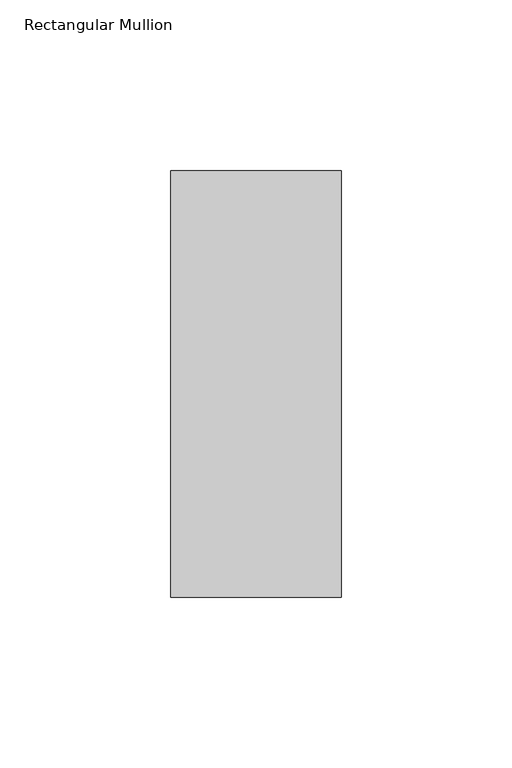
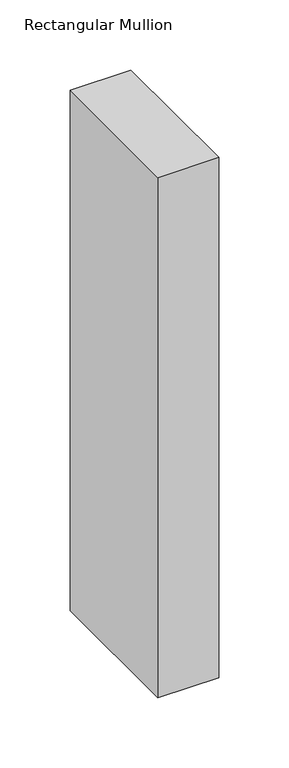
"""IFC4 building model written with IfcOpenShell, lengths in millimetres: member geometry, Rectangular Mullion : DucoSun Cubic Design profile 50x125 for louvre 600."""

from ifc_helpers import new_model, si_unit, frame, origin, place, context, project, spatial, polyline, outline, extrude, source, transform, mapped, element, save


def rectangular_mullion_7d3f3cb4(model_context):
    return source(origin(), model_context, "Body", "SweptSolid", [
        extrude(outline(polyline([(-50.0, -237.5), (0.0, -237.5), (0.0, -362.5), (-50.0, -362.5), (-50.0, -237.5)])), frame((0.0, 0.0, -452.4), z_axis=(0.0, 0.0, 1.0), x_axis=(1.0, 0.0, 0.0)), (0.0, 0.0, 1.0), 452.4),
    ])


if __name__ == "__main__":
    model = new_model("IFC4")
    model_context = context("Model", 3, world=origin())
    ifc_project = project(units=[si_unit("LENGTHUNIT", "METRE", prefix="MILLI")], contexts=[model_context])
    site = spatial("IfcSite", under=ifc_project)
    building = spatial("IfcBuilding", under=site)
    placement = place(None, origin())
    rectangular_mullion_shape = rectangular_mullion_7d3f3cb4(model_context)
    element("IfcMember", 1, ObjectType="Rectangular Mullion : DucoSun Cubic Design profile 50x125 for louvre 600", at=placement, inside=building, context=model_context, shape_type="MappedRepresentation", body=[
        mapped(rectangular_mullion_shape, transform((0.0, 0.0, 0.0), x_axis=(1.0, 0.0, 0.0), y_axis=(0.0, 1.0, 0.0), z_axis=(0.0, 0.0, 1.0))),
    ])
    save(model, "model.ifc")
